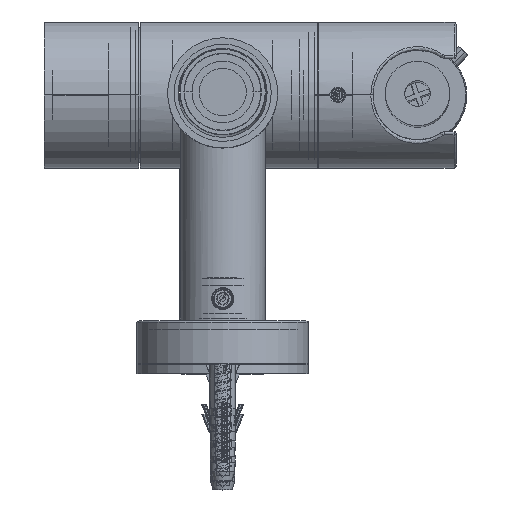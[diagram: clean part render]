
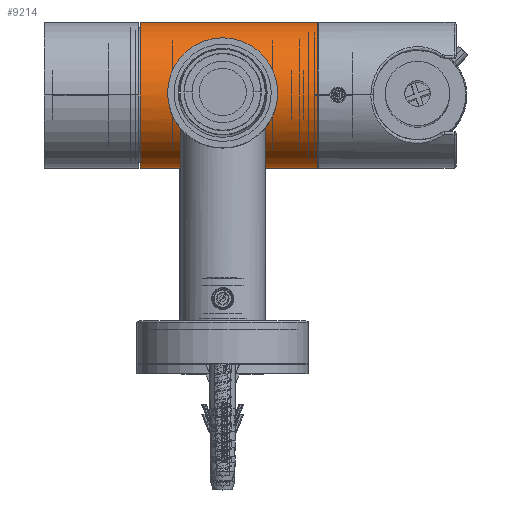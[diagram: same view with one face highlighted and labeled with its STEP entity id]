
A CAD part, top view. The second image highlights one B-rep face of the part: STEP entity #9214.
In plain terms, the highlighted cylindrical face has radius 17 mm (diameter 34 mm), a partial arc.
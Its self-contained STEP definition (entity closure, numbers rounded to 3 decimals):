
#8792=CARTESIAN_POINT('',(0.,41.2,0.));
#8793=DIRECTION('',(0.,-1.,0.));
#8794=DIRECTION('',(1.,0.,0.));
#8795=AXIS2_PLACEMENT_3D('',#8792,#8793,#8794);
#8855=DIRECTION('',(0.,1.,0.));
#8856=VECTOR('',#8855,41.2);
#8857=CARTESIAN_POINT('',(17.,0.,0.));
#8858=LINE('',#8857,#8856);
#8859=CARTESIAN_POINT('',(0.,0.,0.));
#8860=DIRECTION('',(0.,-1.,0.));
#8861=DIRECTION('',(1.,0.,0.));
#8862=AXIS2_PLACEMENT_3D('',#8859,#8860,#8861);
#8864=DIRECTION('',(0.,1.,0.));
#8865=VECTOR('',#8864,41.2);
#8866=CARTESIAN_POINT('',(-17.,0.,0.));
#8867=LINE('',#8866,#8865);
#8868=CARTESIAN_POINT('',(-11.25,22.,12.745));
#8869=CARTESIAN_POINT('',(-11.25,22.524,12.745));
#8870=CARTESIAN_POINT('',(-11.177,23.504,12.81));
#8871=CARTESIAN_POINT('',(-10.932,24.742,13.021));
#8872=CARTESIAN_POINT('',(-10.595,25.837,13.298));
#8873=CARTESIAN_POINT('',(-10.166,26.861,13.63));
#8874=CARTESIAN_POINT('',(-9.627,27.858,14.018));
#8875=CARTESIAN_POINT('',(-8.999,28.782,14.43));
#8876=CARTESIAN_POINT('',(-8.287,29.635,14.852));
#8877=CARTESIAN_POINT('',(-7.505,30.405,15.263));
#8878=CARTESIAN_POINT('',(-6.622,31.12,15.669));
#8879=CARTESIAN_POINT('',(-5.588,31.793,16.07));
#8880=CARTESIAN_POINT('',(-4.354,32.409,16.453));
#8881=CARTESIAN_POINT('',(-2.834,32.932,16.79));
#8882=CARTESIAN_POINT('',(-1.055,33.255,17.003));
#8883=CARTESIAN_POINT('',(0.899,33.269,17.012));
#8884=CARTESIAN_POINT('',(2.699,32.967,16.813));
#8885=CARTESIAN_POINT('',(4.245,32.455,16.482));
#8886=CARTESIAN_POINT('',(5.498,31.844,16.101));
#8887=CARTESIAN_POINT('',(6.549,31.173,15.7));
#8888=CARTESIAN_POINT('',(7.446,30.458,15.292));
#8889=CARTESIAN_POINT('',(8.239,29.687,14.878));
#8890=CARTESIAN_POINT('',(8.962,28.831,14.453));
#8891=CARTESIAN_POINT('',(9.6,27.902,14.036));
#8892=CARTESIAN_POINT('',(10.148,26.899,13.643));
#8893=CARTESIAN_POINT('',(10.584,25.869,13.307));
#8894=CARTESIAN_POINT('',(10.926,24.766,13.025));
#8895=CARTESIAN_POINT('',(11.175,23.518,12.812));
#8896=CARTESIAN_POINT('',(11.25,22.529,12.745));
#8897=CARTESIAN_POINT('',(11.25,22.,12.745));
#8899=CARTESIAN_POINT('',(11.25,22.,12.745));
#8900=CARTESIAN_POINT('',(11.25,21.402,12.745));
#8901=CARTESIAN_POINT('',(11.16,20.187,12.826));
#8902=CARTESIAN_POINT('',(10.657,18.202,13.255));
#8903=CARTESIAN_POINT('',(9.802,16.362,13.907));
#8904=CARTESIAN_POINT('',(8.696,14.781,14.63));
#8905=CARTESIAN_POINT('',(7.392,13.452,15.335));
#8906=CARTESIAN_POINT('',(5.874,12.344,15.984));
#8907=CARTESIAN_POINT('',(4.132,11.469,16.53));
#8908=CARTESIAN_POINT('',(2.078,10.876,16.916));
#8909=CARTESIAN_POINT('',(0.029,10.691,17.04));
#8910=CARTESIAN_POINT('',(-2.001,10.863,16.925));
#8911=CARTESIAN_POINT('',(-4.064,11.442,16.547));
#8912=CARTESIAN_POINT('',(-5.817,12.308,16.005));
#8913=CARTESIAN_POINT('',(-7.351,13.415,15.356));
#8914=CARTESIAN_POINT('',(-8.668,14.746,14.647));
#8915=CARTESIAN_POINT('',(-9.787,16.335,13.918));
#8916=CARTESIAN_POINT('',(-10.65,18.181,13.26));
#8917=CARTESIAN_POINT('',(-11.16,20.183,12.826));
#8918=CARTESIAN_POINT('',(-11.25,21.401,12.745));
#8919=CARTESIAN_POINT('',(-11.25,22.,12.745));
#8969=CARTESIAN_POINT('',(17.,0.,0.));
#8970=CARTESIAN_POINT('',(17.,41.2,0.));
#8971=VERTEX_POINT('',#8969);
#8972=VERTEX_POINT('',#8970);
#8989=CARTESIAN_POINT('',(-17.,0.,0.));
#8990=CARTESIAN_POINT('',(-17.,41.2,0.));
#8991=VERTEX_POINT('',#8989);
#8992=VERTEX_POINT('',#8990);
#9009=VERTEX_POINT('',#8868);
#9010=VERTEX_POINT('',#8897);
#9196=CARTESIAN_POINT('',(0.,-2.11,0.));
#9197=DIRECTION('',(0.,1.,0.));
#9198=DIRECTION('',(1.,0.,0.));
#9199=AXIS2_PLACEMENT_3D('',#9196,#9197,#9198);
#9200=CYLINDRICAL_SURFACE('',#9199,17.);
#9201=ORIENTED_EDGE('',*,*,#9180,.F.);
#9203=ORIENTED_EDGE('',*,*,#9202,.T.);
#9204=ORIENTED_EDGE('',*,*,#9183,.T.);
#9205=ORIENTED_EDGE('',*,*,#9166,.F.);
#9206=EDGE_LOOP('',(#9201,#9203,#9204,#9205));
#9207=FACE_OUTER_BOUND('',#9206,.F.);
#9209=ORIENTED_EDGE('',*,*,#9208,.F.);
#9211=ORIENTED_EDGE('',*,*,#9210,.F.);
#9212=EDGE_LOOP('',(#9209,#9211));
#9213=FACE_BOUND('',#9212,.F.);
#9214=ADVANCED_FACE('',(#9207,#9213),#9200,.T.);
#8796=CIRCLE('',#8795,17.);
#8863=CIRCLE('',#8862,17.);
#8898=B_SPLINE_CURVE_WITH_KNOTS('',3,(#8868,#8869,#8870,#8871,#8872,#8873,#8874,
#8875,#8876,#8877,#8878,#8879,#8880,#8881,#8882,#8883,#8884,#8885,#8886,#8887,
#8888,#8889,#8890,#8891,#8892,#8893,#8894,#8895,#8896,#8897),.UNSPECIFIED.,.F.,
.F.,(4,1,1,1,1,1,1,1,1,1,1,1,1,1,1,1,1,1,1,1,1,1,1,1,1,1,1,4),(0.,
0.037,0.074,0.111,0.148,
0.185,0.222,0.259,0.296,
0.333,0.37,0.407,0.444,
0.481,0.519,0.556,0.593,
0.63,0.667,0.704,0.741,
0.778,0.815,0.852,0.889,
0.926,0.963,1.),.UNSPECIFIED.);
#8920=B_SPLINE_CURVE_WITH_KNOTS('',3,(#8899,#8900,#8901,#8902,#8903,#8904,#8905,
#8906,#8907,#8908,#8909,#8910,#8911,#8912,#8913,#8914,#8915,#8916,#8917,#8918,
#8919),.UNSPECIFIED.,.F.,.F.,(4,1,1,1,1,1,1,1,1,1,1,1,1,1,1,1,1,1,4),(0.,
0.056,0.111,0.167,0.222,
0.278,0.333,0.389,0.444,0.5,
0.556,0.611,0.667,0.722,
0.778,0.833,0.889,0.944,1.),
.UNSPECIFIED.);
#9166=EDGE_CURVE('',#8972,#8992,#8796,.T.);
#9180=EDGE_CURVE('',#8971,#8972,#8858,.T.);
#9183=EDGE_CURVE('',#8991,#8992,#8867,.T.);
#9202=EDGE_CURVE('',#8971,#8991,#8863,.T.);
#9208=EDGE_CURVE('',#9009,#9010,#8898,.T.);
#9210=EDGE_CURVE('',#9010,#9009,#8920,.T.);
